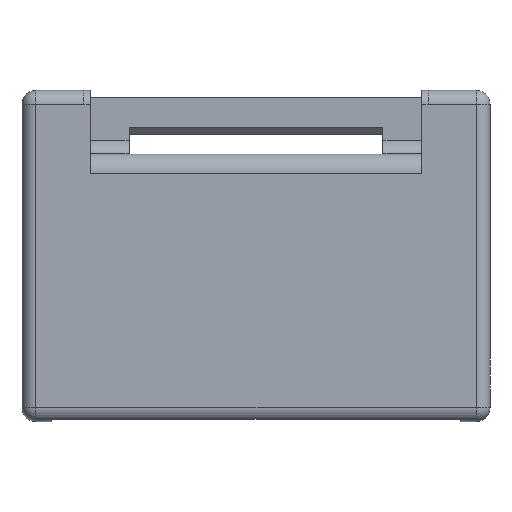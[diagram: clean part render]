
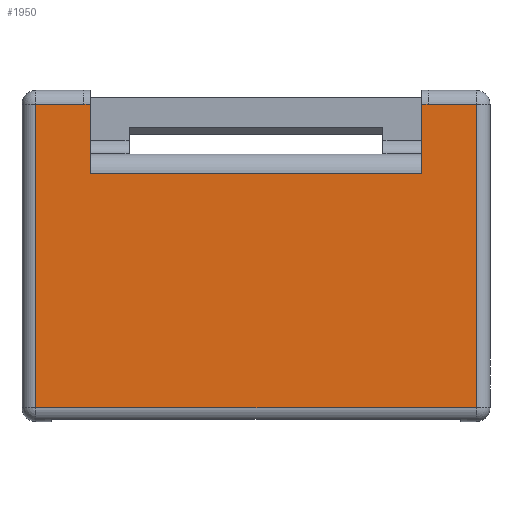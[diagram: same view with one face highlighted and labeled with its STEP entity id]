
A CAD part, front view. The second image highlights one B-rep face of the part: STEP entity #1950.
In plain terms, the highlighted planar face has unit normal (0, -1, 0).
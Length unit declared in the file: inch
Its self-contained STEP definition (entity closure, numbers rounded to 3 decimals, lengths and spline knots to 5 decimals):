
#498 = LINE ( 'NONE', #587, #599 ) ;
#587 = CARTESIAN_POINT ( 'NONE',  ( -1.5, 0., 1.5 ) ) ;
#593 = DIRECTION ( 'NONE',  ( 0., 0., 1. ) ) ;
#599 = VECTOR ( 'NONE', #593, 39.37008 ) ;
#703 = CARTESIAN_POINT ( 'NONE',  ( -1.5, 0., 1.375 ) ) ;
#870 = CARTESIAN_POINT ( 'NONE',  ( 1.5, 0., 1.375 ) ) ;
#901 = CARTESIAN_POINT ( 'NONE',  ( -1.5, 0., 0.75 ) ) ;
#903 = LINE ( 'NONE', #906, #904 ) ;
#904 = VECTOR ( 'NONE', #905, 39.37008 ) ;
#905 = DIRECTION ( 'NONE',  ( -1., 0., 0. ) ) ;
#906 = CARTESIAN_POINT ( 'NONE',  ( -2.12, 0., 1.375 ) ) ;
#967 = CARTESIAN_POINT ( 'NONE',  ( -1.56, 0., 1.375 ) ) ;
#986 = CARTESIAN_POINT ( 'NONE',  ( 1.5, 0., 0.75 ) ) ;
#1186 = LINE ( 'NONE', #1265, #1264 ) ;
#1204 = CARTESIAN_POINT ( 'NONE',  ( -1.995, 0., 1.375 ) ) ;
#1246 = DIRECTION ( 'NONE',  ( -1., 0., 0. ) ) ;
#1247 = VECTOR ( 'NONE', #1246, 39.37008 ) ;
#1258 = DIRECTION ( 'NONE',  ( 0., 0., -1. ) ) ;
#1264 = VECTOR ( 'NONE', #1258, 39.37008 ) ;
#1265 = CARTESIAN_POINT ( 'NONE',  ( 1.5, 0., 1.5 ) ) ;
#1269 = CARTESIAN_POINT ( 'NONE',  ( -2.12, 0., 1.375 ) ) ;
#1270 = LINE ( 'NONE', #1269, #1247 ) ;
#1900 = VERTEX_POINT ( 'NONE', #3830 ) ;
#1906 = VERTEX_POINT ( 'NONE', #3835 ) ;
#1907 = EDGE_CURVE ( 'NONE', #1900, #3022, #3836, .T. ) ;
#1908 = ORIENTED_EDGE ( 'NONE', *, *, #1972, .T. ) ;
#1910 = VERTEX_POINT ( 'NONE', #3876 ) ;
#1911 = ORIENTED_EDGE ( 'NONE', *, *, #1951, .T. ) ;
#1912 = EDGE_CURVE ( 'NONE', #3110, #3041, #3866, .T. ) ;
#1913 = ORIENTED_EDGE ( 'NONE', *, *, #1979, .T. ) ;
#1914 = ORIENTED_EDGE ( 'NONE', *, *, #1912, .T. ) ;
#1915 = ORIENTED_EDGE ( 'NONE', *, *, #3191, .T. ) ;
#1916 = ORIENTED_EDGE ( 'NONE', *, *, #3149, .T. ) ;
#1948 = ORIENTED_EDGE ( 'NONE', *, *, #1967, .T. ) ;
#1949 = EDGE_LOOP ( 'NONE', ( #1953, #1914, #1954, #1916, #1915, #1911, #1913, #1948, #1908, #1964 ) ) ;
#1950 = ADVANCED_FACE ( 'NONE', ( #3912 ), #3806, .F. ) ;
#1951 = EDGE_CURVE ( 'NONE', #3166, #1910, #3904, .T. ) ;
#1953 = ORIENTED_EDGE ( 'NONE', *, *, #3156, .T. ) ;
#1954 = ORIENTED_EDGE ( 'NONE', *, *, #3038, .T. ) ;
#1964 = ORIENTED_EDGE ( 'NONE', *, *, #1907, .T. ) ;
#1967 = EDGE_CURVE ( 'NONE', #1968, #1906, #4064, .T. ) ;
#1968 = VERTEX_POINT ( 'NONE', #3955 ) ;
#1972 = EDGE_CURVE ( 'NONE', #1906, #1900, #4100, .T. ) ;
#1979 = EDGE_CURVE ( 'NONE', #1910, #1968, #3930, .T. ) ;
#2946 = VERTEX_POINT ( 'NONE', #703 ) ;
#3022 = VERTEX_POINT ( 'NONE', #870 ) ;
#3038 = EDGE_CURVE ( 'NONE', #3041, #2946, #498, .T. ) ;
#3041 = VERTEX_POINT ( 'NONE', #901 ) ;
#3077 = VERTEX_POINT ( 'NONE', #967 ) ;
#3110 = VERTEX_POINT ( 'NONE', #986 ) ;
#3149 = EDGE_CURVE ( 'NONE', #2946, #3077, #1270, .T. ) ;
#3156 = EDGE_CURVE ( 'NONE', #3022, #3110, #1186, .T. ) ;
#3166 = VERTEX_POINT ( 'NONE', #1204 ) ;
#3191 = EDGE_CURVE ( 'NONE', #3077, #3166, #903, .T. ) ;
#3773 = DIRECTION ( 'NONE',  ( 0., 0., -1. ) ) ;
#3774 = VECTOR ( 'NONE', #3773, 39.37008 ) ;
#3775 = CARTESIAN_POINT ( 'NONE',  ( -1.995, 0., 1.5 ) ) ;
#3778 = DIRECTION ( 'NONE',  ( 0., 0., 1. ) ) ;
#3779 = DIRECTION ( 'NONE',  ( 0., 1., 0. ) ) ;
#3803 = CARTESIAN_POINT ( 'NONE',  ( -2.12, 0., 1.5 ) ) ;
#3806 = PLANE ( 'NONE',  #3911 ) ;
#3830 = CARTESIAN_POINT ( 'NONE',  ( 1.56, 0., 1.375 ) ) ;
#3835 = CARTESIAN_POINT ( 'NONE',  ( 1.995, 0., 1.375 ) ) ;
#3836 = LINE ( 'NONE', #3887, #3886 ) ;
#3865 = CARTESIAN_POINT ( 'NONE',  ( -1.5, 0., 0.75 ) ) ;
#3866 = LINE ( 'NONE', #3865, #3923 ) ;
#3876 = CARTESIAN_POINT ( 'NONE',  ( -1.995, 0., -1.375 ) ) ;
#3885 = DIRECTION ( 'NONE',  ( -1., 0., 0. ) ) ;
#3886 = VECTOR ( 'NONE', #3885, 39.37008 ) ;
#3887 = CARTESIAN_POINT ( 'NONE',  ( -2.12, 0., 1.375 ) ) ;
#3904 = LINE ( 'NONE', #3775, #3774 ) ;
#3911 = AXIS2_PLACEMENT_3D ( 'NONE', #3803, #3779, #3778 ) ;
#3912 = FACE_OUTER_BOUND ( 'NONE', #1949, .T. ) ;
#3922 = DIRECTION ( 'NONE',  ( -1., 0., 0. ) ) ;
#3923 = VECTOR ( 'NONE', #3922, 39.37008 ) ;
#3929 = CARTESIAN_POINT ( 'NONE',  ( -2.12, 0., -1.375 ) ) ;
#3930 = LINE ( 'NONE', #3929, #4070 ) ;
#3952 = DIRECTION ( 'NONE',  ( 0., 0., 1. ) ) ;
#3953 = VECTOR ( 'NONE', #3952, 39.37008 ) ;
#3954 = CARTESIAN_POINT ( 'NONE',  ( 1.995, 0., 1.5 ) ) ;
#3955 = CARTESIAN_POINT ( 'NONE',  ( 1.995, 0., -1.375 ) ) ;
#4050 = VECTOR ( 'NONE', #4098, 39.37008 ) ;
#4064 = LINE ( 'NONE', #3954, #3953 ) ;
#4069 = DIRECTION ( 'NONE',  ( 1., 0., 0. ) ) ;
#4070 = VECTOR ( 'NONE', #4069, 39.37008 ) ;
#4098 = DIRECTION ( 'NONE',  ( -1., 0., 0. ) ) ;
#4099 = CARTESIAN_POINT ( 'NONE',  ( -2.12, 0., 1.375 ) ) ;
#4100 = LINE ( 'NONE', #4099, #4050 ) ;
